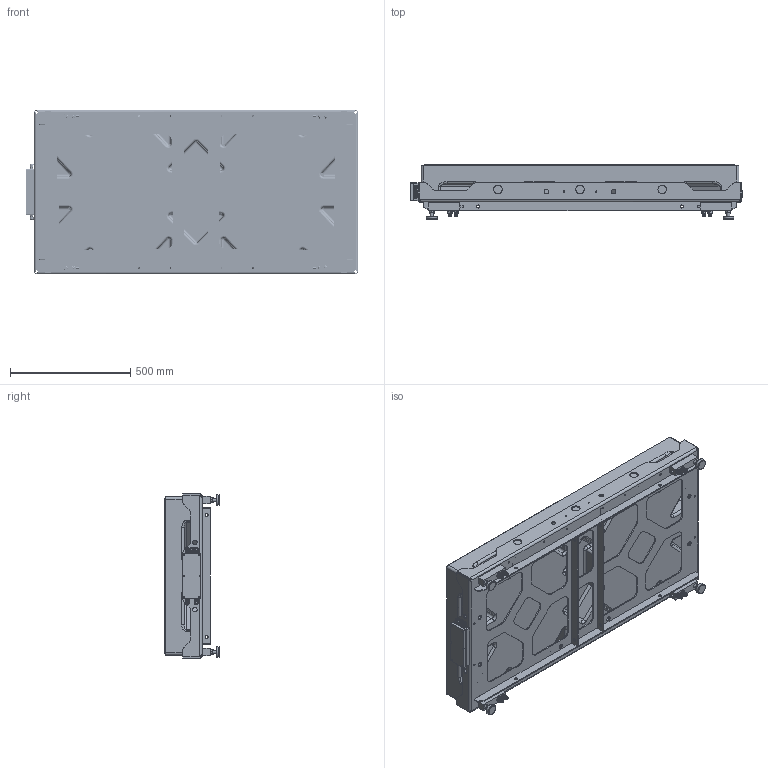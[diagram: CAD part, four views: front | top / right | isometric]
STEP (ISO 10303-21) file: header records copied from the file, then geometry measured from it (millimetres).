
FILE_DESCRIPTION (( 'STEP AP214' ), '1' );
FILE_NAME ('4042 26 X 52.STEP', '2022-01-07T17:54:44', ( '' ), ( '' ), 'SwSTEP 2.0', 'SolidWorks 2019', '' );
FILE_SCHEMA (( 'AUTOMOTIVE_DESIGN' ));
Length unit declared in the file: inch
Products named in the file (1): 4042 26 X 52
Bounding box: 1379.73 x 230.8 x 682.62 mm (x, y, z)
Surface area: 6383002.9 mm2 (no closed solid volume)
Topology: 0 solids, 123 shells, 1944 faces, 6822 edges, 4858 vertices
Faces by surface type: plane 1305, cylinder 447, cone 58, bspline 57, torus 53, sphere 24
Full cylindrical faces by diameter (mm): 5.105 x10, 6.096 x2, 6.629 x16, 6.731 x2, 7.938 x4, 12.268 x3, 12.667 x4, 12.7 x8, 15.85 x2, 19.05 x16, 20.65 x8, 34.925 x3, 35.052 x4, 37.973 x4, 38.481 x2, 44.45 x4
Entity records: 145831 total; most frequent: CARTESIAN_POINT 64549, DIRECTION 10985, ORIENTED_EDGE 10247, EDGE_CURVE 6619, VERTEX_POINT 4799, LINE 4769, VECTOR 4769, AXIS2_PLACEMENT_3D 3108
